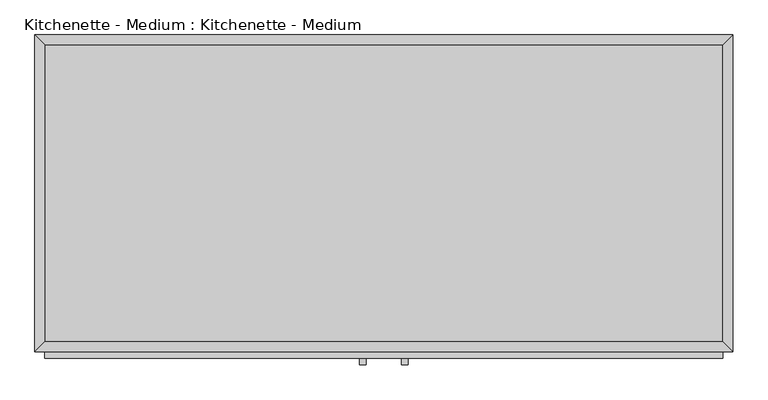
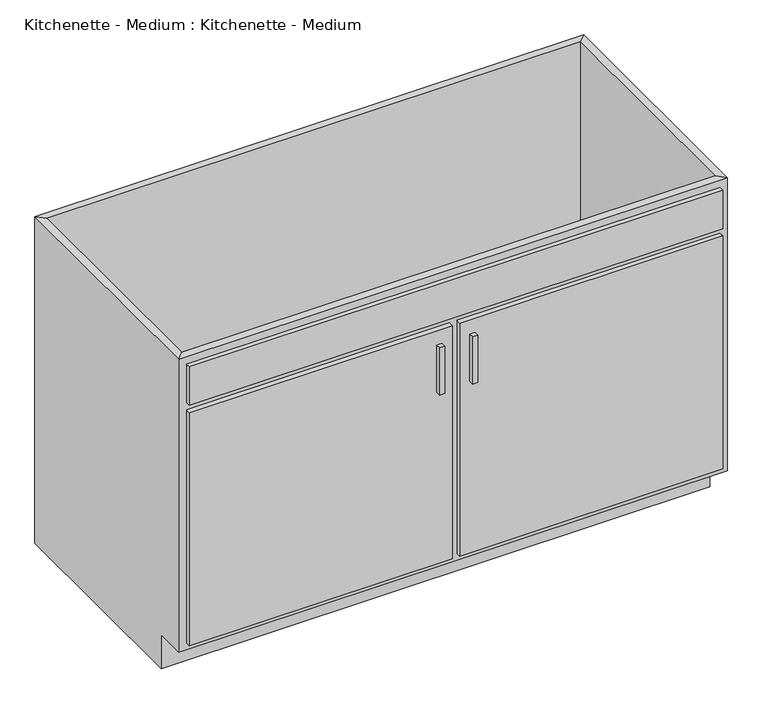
"""IFC4 building model written with IfcOpenShell, lengths in millimetres: proxy geometry, Kitchenette - Medium : Kitchenette - Medium."""

from ifc_helpers import new_model, si_unit, frame, origin, place, context, project, spatial, polyline, outline, extrude, faceted_brep, source, transform, mapped, element, save


def kitchenette_medium_kitchenette_medium_7c2ce49e(model_context):
    return source(origin(), model_context, "Body", "SolidModel", [
        faceted_brep([(685.4877049, -603.25, 863.6), (685.4877049, -603.25, 88.9), (-648.0122951, -603.25, 88.9), (-648.0122951, -603.25, 863.6), (-667.0622951, -622.3, 863.6), (704.5377049, -622.3, 863.6), (-667.0622951, -622.3, 88.9), (704.5377049, -622.3, 88.9), (-648.0122951, -546.1, 88.9), (-648.0122951, -19.05, 88.9), (-648.0122951, -19.05, 863.6), (-667.0622951, 0.0, 863.6), (-667.0622951, 0.0, 0.0), (-667.0622951, -546.1, 0.0), (-667.0622951, -546.1, 88.9), (685.4877049, -19.05, 88.9), (685.4877049, -19.05, 863.6), (704.5377049, 0.0, 863.6), (704.5377049, 0.0, 0.0), (685.4877049, -546.1, 88.9), (704.5377049, -546.1, 88.9), (704.5377049, -546.1, 0.0)], [[[0, 1, 2, 3]], [[0, 3, 4, 5]], [[5, 4, 6, 7]], [[2, 1, 7, 6]], [[3, 2, 8, 9, 10]], [[4, 3, 10, 11]], [[6, 4, 11, 12, 13, 14]], [[2, 6, 14, 8]], [[10, 9, 15, 16]], [[11, 10, 16, 17]], [[12, 11, 17, 18]], [[1, 0, 16, 15, 19]], [[0, 5, 17, 16]], [[5, 7, 20, 21, 18, 17]], [[7, 1, 19, 20]], [[8, 19, 15, 9]], [[18, 21, 13, 12]], [[13, 21, 20, 19, 8, 14]]]),
        extrude(outline(polyline([(-16.1872951, -647.7), (-28.8872951, -647.7), (-28.8872951, -635.0), (-16.1872951, -635.0), (-16.1872951, -647.7)])), frame((0.0, 0.0, 561.069895), z_axis=(0.0, 0.0, 1.0), x_axis=(1.0, 0.0, 0.0)), (0.0, 0.0, 1.0), 124.730105),
        extrude(outline(polyline([(66.3627049, -647.7), (53.6627049, -647.7), (53.6627049, -635.0), (66.3627049, -635.0), (66.3627049, -647.7)])), frame((0.0, 0.0, 561.069895), z_axis=(0.0, 0.0, 1.0), x_axis=(1.0, 0.0, 0.0)), (0.0, 0.0, 1.0), 124.730105),
        extrude(outline(polyline([(685.4877049, -19.05), (685.4877049, -603.25), (-648.0122951, -603.25), (-648.0122951, -19.05), (685.4877049, -19.05)])), frame((0.0, 0.0, 88.9), z_axis=(0.0, 0.0, 1.0), x_axis=(1.0, 0.0, 0.0)), (0.0, 0.0, 1.0), 19.05),
        extrude(outline(polyline([(9.2127049, -635.0), (-648.0122951, -635.0), (-648.0122951, -622.3), (9.2127049, -622.3), (9.2127049, -635.0)])), frame((0.0, 0.0, 107.95), z_axis=(0.0, 0.0, 1.0), x_axis=(1.0, 0.0, 0.0)), (0.0, 0.0, 1.0), 615.95),
        extrude(outline(polyline([(685.4877049, -635.0), (28.2627049, -635.0), (28.2627049, -622.3), (685.4877049, -622.3), (685.4877049, -635.0)])), frame((0.0, 0.0, 107.95), z_axis=(0.0, 0.0, 1.0), x_axis=(1.0, 0.0, 0.0)), (0.0, 0.0, 1.0), 615.95),
        extrude(outline(polyline([(685.4877049, -635.0), (-648.0122951, -635.0), (-648.0122951, -622.3), (685.4877049, -622.3), (685.4877049, -635.0)])), frame((0.0, 0.0, 742.95), z_axis=(0.0, 0.0, 1.0), x_axis=(1.0, 0.0, 0.0)), (0.0, 0.0, 1.0), 101.6),
    ])


if __name__ == "__main__":
    model = new_model("IFC4")
    model_context = context("Model", 3, world=origin())
    ifc_project = project(units=[si_unit("LENGTHUNIT", "METRE", prefix="MILLI")], contexts=[model_context])
    site = spatial("IfcSite", under=ifc_project)
    building = spatial("IfcBuilding", under=site)
    placement = place(None, origin())
    kitchenette_medium_kitchenette_medium_shape = kitchenette_medium_kitchenette_medium_7c2ce49e(model_context)
    element("IfcBuildingElementProxy", 1, Name="Kitchenette - Medium : Kitchenette - Medium", ObjectType="Kitchenette - Medium : Kitchenette - Medium", at=placement, inside=building, context=model_context, shape_type="MappedRepresentation", body=[
        mapped(kitchenette_medium_kitchenette_medium_shape, transform((0.0, 0.0, 0.0), x_axis=(1.0, 0.0, 0.0), y_axis=(0.0, 1.0, 0.0), z_axis=(0.0, 0.0, 1.0))),
    ])
    save(model, "model.ifc")
